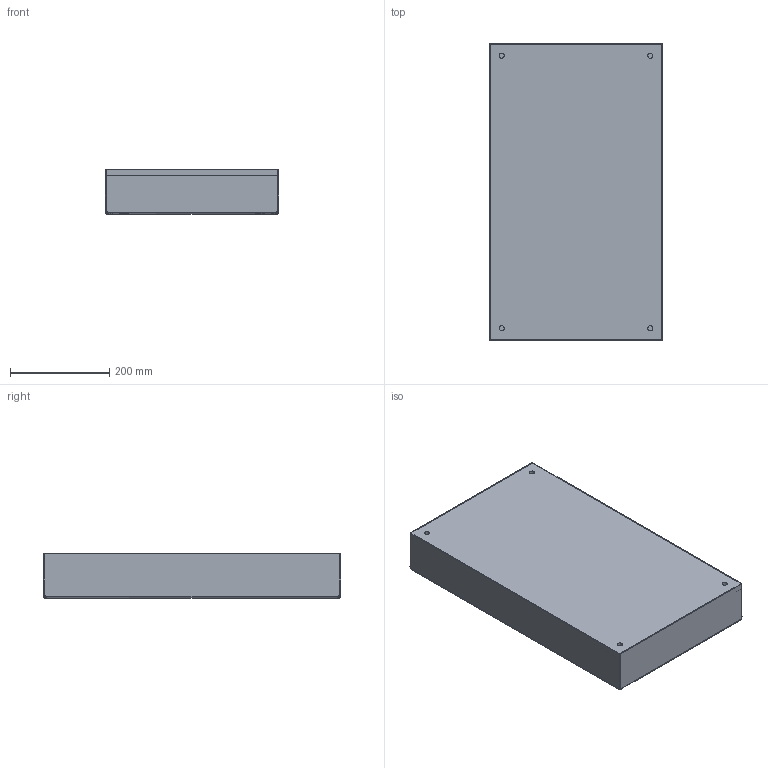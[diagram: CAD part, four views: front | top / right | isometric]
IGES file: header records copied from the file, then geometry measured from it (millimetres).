
Global section: file name: SMB-35-60; native system: unknown; preprocessor: unknown; author: unknown; organization: unknown; date: 20230705.141646; units: millimetre
Bounding box: 350 x 600 x 90 mm (x, y, z)
Volume: 3218340.9 mm3; surface area: 1187489.8 mm2
Topology: 2 solids, 2 shells, 57 faces, 140 edges, 88 vertices
Faces by surface type: bspline 57
